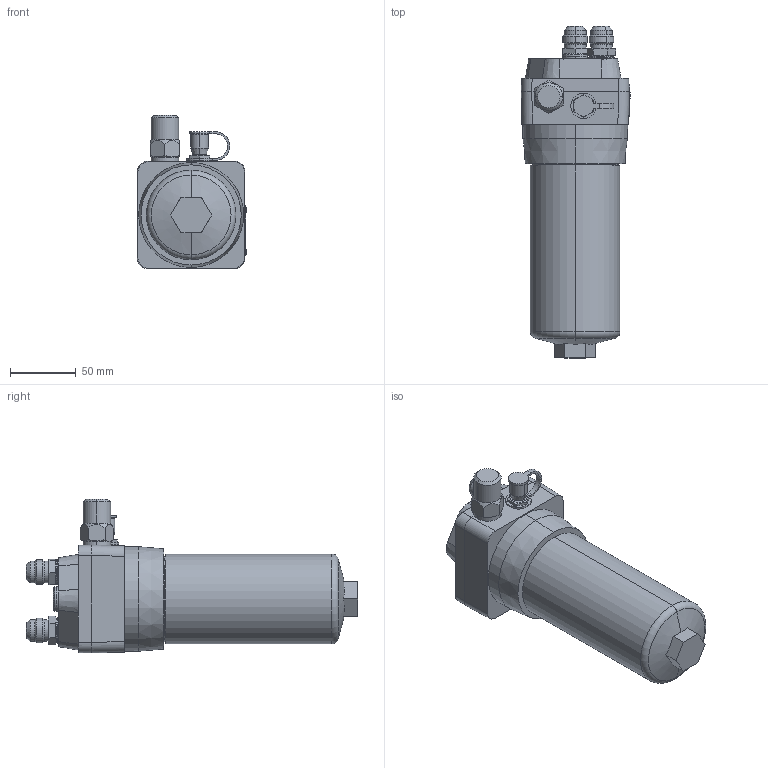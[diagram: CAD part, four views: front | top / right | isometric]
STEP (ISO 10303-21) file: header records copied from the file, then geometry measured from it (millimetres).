
FILE_DESCRIPTION (( 'STEP AP203' ), '1' );
FILE_NAME ('S-0480.STEP', '2018-05-21T11:13:24', ( '' ), ( '' ), 'SwSTEP 2.0', 'SolidWorks 2018', '' );
FILE_SCHEMA (( 'CONFIG_CONTROL_DESIGN' ));
Length unit declared in the file: millimetre
Products named in the file (1): S-0480
Bounding box: 83.3 x 252.9 x 117 mm (x, y, z)
Volume: 1055103.9 mm3; surface area: 98759.2 mm2
Topology: 11 solids, 15 shells, 477 faces, 1122 edges, 694 vertices
Faces by surface type: plane 213, cylinder 130, cone 85, bspline 29, torus 20
Entity records: 15534 total; most frequent: CARTESIAN_POINT 4800, ORIENTED_EDGE 2212, DIRECTION 2149, EDGE_CURVE 1106, AXIS2_PLACEMENT_3D 775, VERTEX_POINT 694, VECTOR 599, LINE 599
